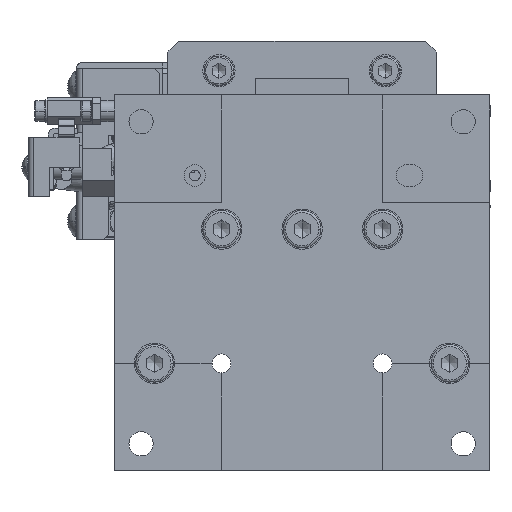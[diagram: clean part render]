
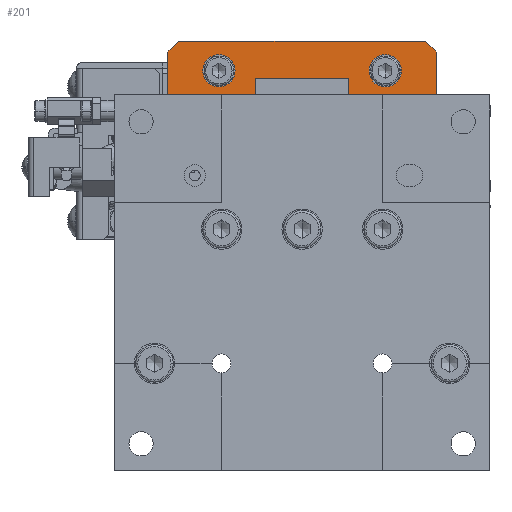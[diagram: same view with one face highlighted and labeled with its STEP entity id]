
A CAD part, front view. The second image highlights one B-rep face of the part: STEP entity #201.
In plain terms, the highlighted planar face has unit normal (0, -1, 0).
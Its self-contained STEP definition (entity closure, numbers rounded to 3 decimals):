
#201=ADVANCED_FACE('',(#4426,#4427,#4428),#4425,.T.);
#4425=PLANE('',#38570);
#4426=FACE_OUTER_BOUND('',#38571,.T.);
#4427=FACE_BOUND('',#38572,.T.);
#4428=FACE_BOUND('',#38573,.T.);
#38567=CARTESIAN_POINT('',(30.,84.5,16.15));
#38568=DIRECTION('',(0.,-1.,0.));
#38569=DIRECTION('',(0.,0.,1.));
#38570=AXIS2_PLACEMENT_3D('',#38567,#38568,#38569);
#38571=EDGE_LOOP('',(#61768,#61769,#61770,#61771,#61772,#61773,#61774,#61775,#61776,#61777));
#38572=EDGE_LOOP('',(#61778,#61779));
#38573=EDGE_LOOP('',(#61780,#61781));
#61768=ORIENTED_EDGE('',*,*,#78245,.F.);
#61769=ORIENTED_EDGE('',*,*,#78246,.T.);
#61770=ORIENTED_EDGE('',*,*,#78247,.T.);
#61771=ORIENTED_EDGE('',*,*,#78235,.T.);
#61772=ORIENTED_EDGE('',*,*,#78248,.T.);
#61773=ORIENTED_EDGE('',*,*,#78225,.T.);
#61774=ORIENTED_EDGE('',*,*,#78241,.F.);
#61775=ORIENTED_EDGE('',*,*,#78249,.T.);
#61776=ORIENTED_EDGE('',*,*,#78250,.F.);
#61777=ORIENTED_EDGE('',*,*,#78251,.F.);
#61778=ORIENTED_EDGE('',*,*,#78252,.T.);
#61779=ORIENTED_EDGE('',*,*,#78253,.T.);
#61780=ORIENTED_EDGE('',*,*,#78254,.T.);
#61781=ORIENTED_EDGE('',*,*,#78255,.T.);
#78225=EDGE_CURVE('',#88518,#88519,#88520,.T.);
#78235=EDGE_CURVE('',#88589,#88582,#88590,.T.);
#78241=EDGE_CURVE('',#88241,#88519,#88630,.T.);
#78245=EDGE_CURVE('',#88655,#88656,#88657,.T.);
#78246=EDGE_CURVE('',#88655,#88053,#88663,.T.);
#78247=EDGE_CURVE('',#88053,#88589,#88669,.T.);
#78248=EDGE_CURVE('',#88582,#88518,#88675,.T.);
#78249=EDGE_CURVE('',#88241,#88681,#88682,.T.);
#78250=EDGE_CURVE('',#88688,#88681,#88689,.T.);
#78251=EDGE_CURVE('',#88656,#88688,#88695,.T.);
#78252=EDGE_CURVE('',#88701,#88702,#88703,.T.);
#78253=EDGE_CURVE('',#88702,#88701,#88709,.T.);
#78254=EDGE_CURVE('',#88715,#88716,#88717,.T.);
#78255=EDGE_CURVE('',#88716,#88715,#88723,.T.);
#88053=VERTEX_POINT('',#142147);
#88241=VERTEX_POINT('',#142251);
#88518=VERTEX_POINT('',#142492);
#88519=VERTEX_POINT('',#142493);
#88520=LINE('',#142494,#142495);
#88582=VERTEX_POINT('',#142529);
#88589=VERTEX_POINT('',#142533);
#88590=LINE('',#142534,#142535);
#88630=LINE('',#142556,#142557);
#88655=VERTEX_POINT('',#142569);
#88656=VERTEX_POINT('',#142570);
#88657=LINE('',#142571,#142572);
#88663=LINE('',#142574,#142575);
#88669=LINE('',#142577,#142578);
#88675=LINE('',#142580,#142581);
#88681=VERTEX_POINT('',#142583);
#88682=LINE('',#142584,#142585);
#88688=VERTEX_POINT('',#142587);
#88689=LINE('',#142588,#142589);
#88695=LINE('',#142591,#142592);
#88701=VERTEX_POINT('',#142594);
#88702=VERTEX_POINT('',#142595);
#88703=CIRCLE('',#142599,3.);
#88709=CIRCLE('',#142603,3.);
#88715=VERTEX_POINT('',#142604);
#88716=VERTEX_POINT('',#142605);
#88717=CIRCLE('',#142609,3.);
#88723=CIRCLE('',#142613,3.);
#142147=CARTESIAN_POINT('',(25.,84.5,17.5));
#142251=CARTESIAN_POINT('',(-25.,84.5,17.5));
#142492=CARTESIAN_POINT('',(-23.,84.5,31.));
#142493=CARTESIAN_POINT('',(-25.,84.5,29.));
#142494=CARTESIAN_POINT('',(-23.,84.5,31.));
#142495=VECTOR('',#142496,2.828);
#142496=DIRECTION('',(-0.707,0.,-0.707));
#142529=CARTESIAN_POINT('',(23.,84.5,31.));
#142533=CARTESIAN_POINT('',(25.,84.5,29.));
#142534=CARTESIAN_POINT('',(25.,84.5,29.));
#142535=VECTOR('',#142536,2.828);
#142536=DIRECTION('',(-0.707,0.,0.707));
#142556=CARTESIAN_POINT('',(-25.,84.5,17.5));
#142557=VECTOR('',#142558,11.5);
#142558=DIRECTION('',(0.,0.,1.));
#142569=CARTESIAN_POINT('',(8.7,84.5,17.5));
#142570=CARTESIAN_POINT('',(8.7,84.5,24.));
#142571=CARTESIAN_POINT('',(8.7,84.5,17.5));
#142572=VECTOR('',#142573,6.5);
#142573=DIRECTION('',(0.,0.,1.));
#142574=CARTESIAN_POINT('',(8.7,84.5,17.5));
#142575=VECTOR('',#142576,16.3);
#142576=DIRECTION('',(1.,0.,0.));
#142577=CARTESIAN_POINT('',(25.,84.5,17.5));
#142578=VECTOR('',#142579,11.5);
#142579=DIRECTION('',(0.,0.,1.));
#142580=CARTESIAN_POINT('',(23.,84.5,31.));
#142581=VECTOR('',#142582,46.);
#142582=DIRECTION('',(-1.,0.,0.));
#142583=CARTESIAN_POINT('',(-8.7,84.5,17.5));
#142584=CARTESIAN_POINT('',(-25.,84.5,17.5));
#142585=VECTOR('',#142586,16.3);
#142586=DIRECTION('',(1.,0.,0.));
#142587=CARTESIAN_POINT('',(-8.7,84.5,24.));
#142588=CARTESIAN_POINT('',(-8.7,84.5,24.));
#142589=VECTOR('',#142590,6.5);
#142590=DIRECTION('',(0.,0.,-1.));
#142591=CARTESIAN_POINT('',(8.7,84.5,24.));
#142592=VECTOR('',#142593,17.4);
#142593=DIRECTION('',(-1.,0.,0.));
#142594=CARTESIAN_POINT('',(-15.5,84.5,22.5));
#142595=CARTESIAN_POINT('',(-15.5,84.5,28.5));
#142596=CARTESIAN_POINT('',(-15.5,84.5,25.5));
#142597=DIRECTION('',(0.,1.,0.));
#142598=DIRECTION('',(0.,0.,-1.));
#142599=AXIS2_PLACEMENT_3D('',#142596,#142597,#142598);
#142600=CARTESIAN_POINT('',(-15.5,84.5,25.5));
#142601=DIRECTION('',(0.,1.,0.));
#142602=DIRECTION('',(0.,0.,-1.));
#142603=AXIS2_PLACEMENT_3D('',#142600,#142601,#142602);
#142604=CARTESIAN_POINT('',(15.5,84.5,22.5));
#142605=CARTESIAN_POINT('',(15.5,84.5,28.5));
#142606=CARTESIAN_POINT('',(15.5,84.5,25.5));
#142607=DIRECTION('',(0.,1.,0.));
#142608=DIRECTION('',(0.,0.,-1.));
#142609=AXIS2_PLACEMENT_3D('',#142606,#142607,#142608);
#142610=CARTESIAN_POINT('',(15.5,84.5,25.5));
#142611=DIRECTION('',(0.,1.,0.));
#142612=DIRECTION('',(0.,0.,-1.));
#142613=AXIS2_PLACEMENT_3D('',#142610,#142611,#142612);
